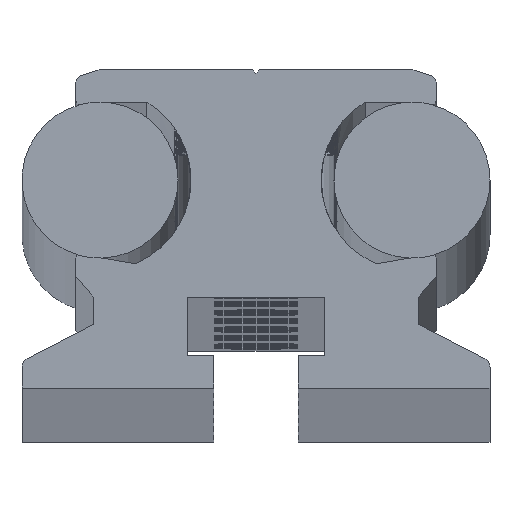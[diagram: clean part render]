
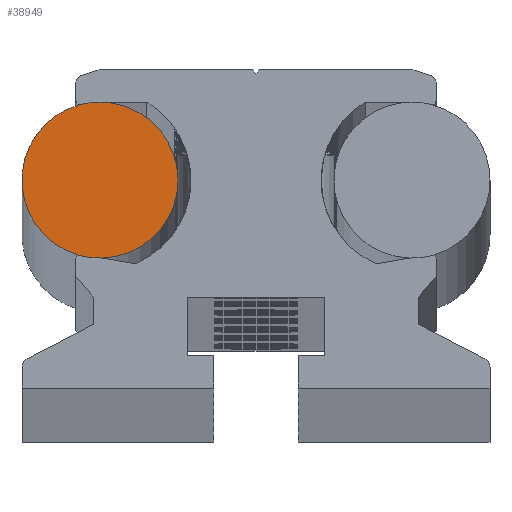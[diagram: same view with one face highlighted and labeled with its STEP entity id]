
A CAD part, top view. The second image highlights one B-rep face of the part: STEP entity #38949.
In plain terms, the highlighted planar face has unit normal (0, 0, 1).
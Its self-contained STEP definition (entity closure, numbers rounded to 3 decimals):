
#2396 = CIRCLE ( 'NONE', #3835, 6. ) ;
#2759 = CARTESIAN_POINT ( 'NONE',  ( -12., 16., -0.5 ) ) ;
#2803 = DIRECTION ( 'NONE',  ( 0., 0., -1. ) ) ;
#2804 = DIRECTION ( 'NONE',  ( 1., 0., 0. ) ) ;
#3835 = AXIS2_PLACEMENT_3D ( 'NONE', #2759, #2803, #2804 ) ;
#3910 = AXIS2_PLACEMENT_3D ( 'NONE', #7036, #7059, #7062 ) ;
#4494 = CARTESIAN_POINT ( 'NONE',  ( -12., 22., -0.5 ) ) ;
#4504 = CARTESIAN_POINT ( 'NONE',  ( -6., 16., -0.5 ) ) ;
#4689 = CARTESIAN_POINT ( 'NONE',  ( -13.516, 21.805, -0.5 ) ) ;
#4693 = CARTESIAN_POINT ( 'NONE',  ( -13.719, 10.251, -0.5 ) ) ;
#4770 = CARTESIAN_POINT ( 'NONE',  ( -11.819, 10.003, -0.5 ) ) ;
#7036 = CARTESIAN_POINT ( 'NONE',  ( -12., 16., -0.5 ) ) ;
#7050 = PLANE ( 'NONE',  #3910 ) ;
#7059 = DIRECTION ( 'NONE',  ( 0., 0., 1. ) ) ;
#7062 = DIRECTION ( 'NONE',  ( 1., 0., 0. ) ) ;
#8419 = FACE_OUTER_BOUND ( 'NONE', #36440, .T. ) ;
#16084 = CARTESIAN_POINT ( 'NONE',  ( -12., 16., -0.5 ) ) ;
#16131 = DIRECTION ( 'NONE',  ( 0., 0., -1. ) ) ;
#16135 = DIRECTION ( 'NONE',  ( 1., 0., 0. ) ) ;
#22842 = CARTESIAN_POINT ( 'NONE',  ( -12., 16., -0.5 ) ) ;
#22856 = DIRECTION ( 'NONE',  ( 0., 0., 1. ) ) ;
#22858 = DIRECTION ( 'NONE',  ( 1., 0., 0. ) ) ;
#22899 = CARTESIAN_POINT ( 'NONE',  ( -12., 16., -0.5 ) ) ;
#22903 = DIRECTION ( 'NONE',  ( 0., 0., 1. ) ) ;
#22905 = DIRECTION ( 'NONE',  ( 1., 0., 0. ) ) ;
#23953 = AXIS2_PLACEMENT_3D ( 'NONE', #16084, #16131, #16135 ) ;
#23958 = AXIS2_PLACEMENT_3D ( 'NONE', #41944, #41946, #41947 ) ;
#24261 = AXIS2_PLACEMENT_3D ( 'NONE', #22842, #22856, #22858 ) ;
#24266 = AXIS2_PLACEMENT_3D ( 'NONE', #22899, #22903, #22905 ) ;
#27774 = CIRCLE ( 'NONE', #23953, 6. ) ;
#30227 = EDGE_CURVE ( 'NONE', #37382, #37639, #27774, .T. ) ;
#30521 = EDGE_CURVE ( 'NONE', #37567, #37565, #40652, .T. ) ;
#31381 = EDGE_CURVE ( 'NONE', #37565, #37639, #41526, .T. ) ;
#31393 = EDGE_CURVE ( 'NONE', #37380, #37567, #41538, .T. ) ;
#34414 = ORIENTED_EDGE ( 'NONE', *, *, #31393, .T. ) ;
#34416 = ORIENTED_EDGE ( 'NONE', *, *, #30521, .T. ) ;
#34418 = ORIENTED_EDGE ( 'NONE', *, *, #31381, .T. ) ;
#34420 = ORIENTED_EDGE ( 'NONE', *, *, #30227, .F. ) ;
#34422 = ORIENTED_EDGE ( 'NONE', *, *, #42927, .F. ) ;
#36440 = EDGE_LOOP ( 'NONE', ( #34414, #34416, #34418, #34420, #34422 ) ) ;
#37380 = VERTEX_POINT ( 'NONE', #4494 ) ;
#37382 = VERTEX_POINT ( 'NONE', #4504 ) ;
#37565 = VERTEX_POINT ( 'NONE', #4693 ) ;
#37567 = VERTEX_POINT ( 'NONE', #4689 ) ;
#37639 = VERTEX_POINT ( 'NONE', #4770 ) ;
#38949 = ADVANCED_FACE ( 'NONE', ( #8419 ), #7050, .T. ) ;
#40652 = CIRCLE ( 'NONE', #23958, 6. ) ;
#41526 = CIRCLE ( 'NONE', #24261, 6. ) ;
#41538 = CIRCLE ( 'NONE', #24266, 6. ) ;
#41944 = CARTESIAN_POINT ( 'NONE',  ( -12., 16., -0.5 ) ) ;
#41946 = DIRECTION ( 'NONE',  ( 0., 0., 1. ) ) ;
#41947 = DIRECTION ( 'NONE',  ( 1., 0., 0. ) ) ;
#42927 = EDGE_CURVE ( 'NONE', #37380, #37382, #2396, .T. ) ;
